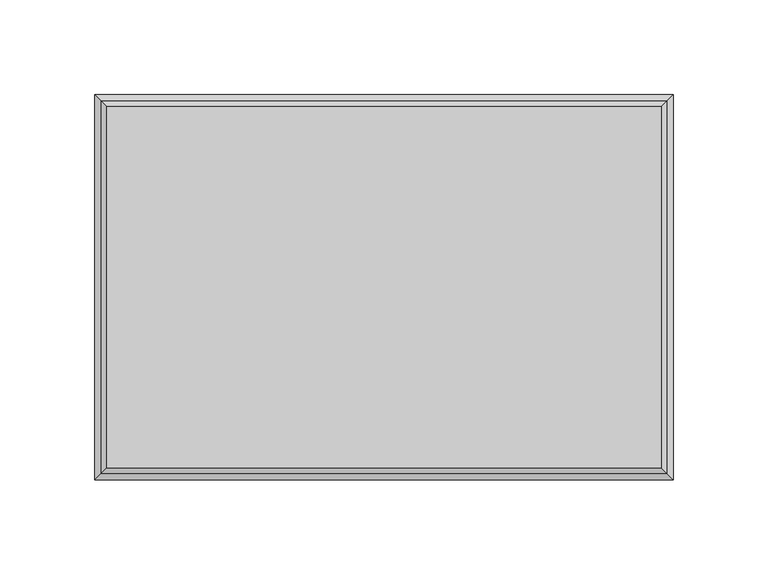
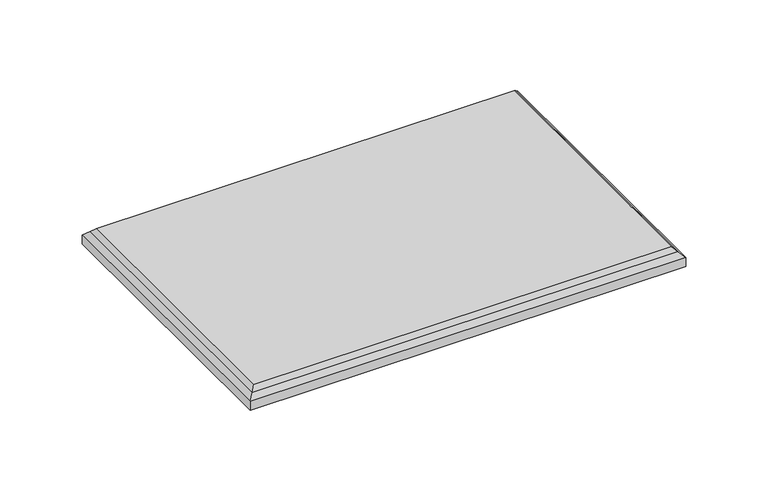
"""IFC4 building model written with IfcOpenShell, lengths in millimetres: proxy geometry, FilzFelt_Rectangle B_Block : Chamfered Edge = 1’-0” x 8” (30.5 x 20.3 cm)."""

from ifc_helpers import new_model, si_unit, origin, place, context, project, spatial, faceted_brep, source, transform, mapped, element, save


def specialty_equipment_34b97818(model_context):
    return source(origin(), model_context, "Body", "Brep", [
        faceted_brep([(149.0265625, 98.2265625, 10.0210937), (149.0265625, -98.2265625, 10.0210937), (-149.0265625, -98.2265625, 10.0210937), (-149.0265625, 98.2265625, 10.0210937), (146.05, -95.25, 12.9976563), (146.05, 95.25, 12.9976563), (-146.05, 95.25, 12.9976563), (-146.05, -95.25, 12.9976563)], [[[0, 1, 2, 3]], [[4, 5, 6, 7]], [[4, 1, 0, 5]], [[1, 4, 7, 2]], [[2, 7, 6, 3]], [[3, 6, 5, 0]]]),
        faceted_brep([(-152.4, -101.6, 0.0), (-152.4, 101.6, 0.0), (152.4, 101.6, 0.0), (152.4, -101.6, 0.0), (149.0265625, -98.2265625, 10.0210937), (149.0265625, 98.2265625, 10.0210937), (-149.0265625, 98.2265625, 10.0210937), (-149.0265625, -98.2265625, 10.0210937), (-152.4, -101.6, 6.6476563), (-152.4, 101.6, 6.6476563), (152.4, -101.6, 6.6476563), (152.4, 101.6, 6.6476563)], [[[0, 1, 2, 3]], [[4, 5, 6, 7]], [[1, 0, 8, 9]], [[0, 3, 10, 8]], [[2, 1, 9, 11]], [[3, 2, 11, 10]], [[4, 10, 11, 5]], [[10, 4, 7, 8]], [[8, 7, 6, 9]], [[9, 6, 5, 11]]]),
    ])


if __name__ == "__main__":
    model = new_model("IFC4")
    model_context = context("Model", 3, world=origin())
    ifc_project = project(units=[si_unit("LENGTHUNIT", "METRE", prefix="MILLI")], contexts=[model_context])
    site = spatial("IfcSite", under=ifc_project)
    building = spatial("IfcBuilding", under=site)
    placement = place(None, origin())
    specialty_equipment_shape = specialty_equipment_34b97818(model_context)
    element("IfcBuildingElementProxy", 1, Name="FilzFelt_Rectangle B_Block : Chamfered Edge = 1’-0” x 8” (30.5 x 20.3 cm)", ObjectType="FilzFelt_Rectangle B_Block : Chamfered Edge = 1’-0” x 8” (30.5 x 20.3 cm)", at=placement, inside=building, context=model_context, shape_type="MappedRepresentation", body=[
        mapped(specialty_equipment_shape, transform((0.0, 0.0, 0.0), x_axis=(1.0, 0.0, 0.0), y_axis=(0.0, 1.0, 0.0), z_axis=(0.0, 0.0, 1.0))),
    ])
    save(model, "model.ifc")
